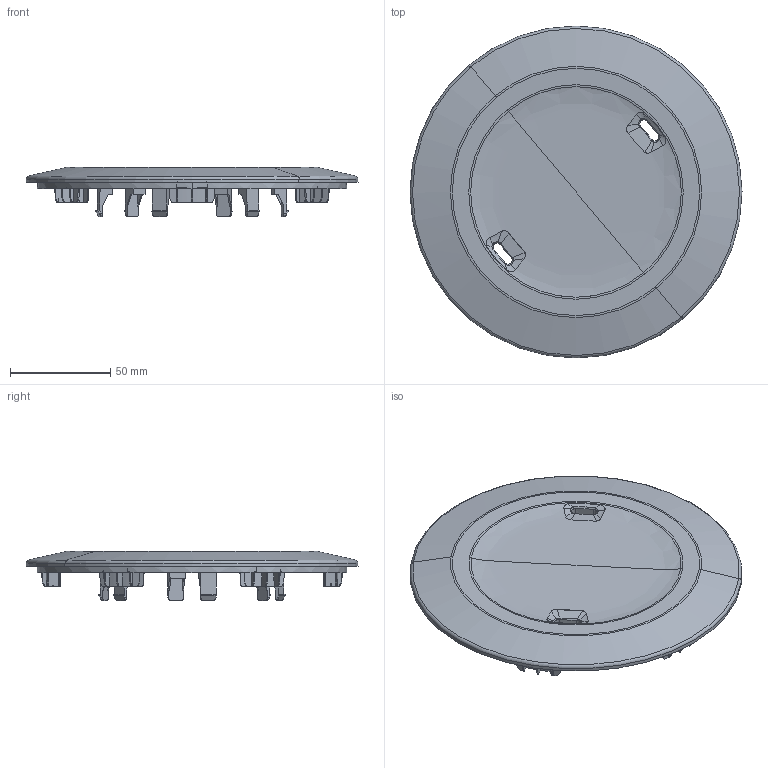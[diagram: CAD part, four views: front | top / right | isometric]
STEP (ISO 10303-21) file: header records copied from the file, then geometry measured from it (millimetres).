
FILE_DESCRIPTION((''),'2;1');
FILE_NAME('YC_SJ_ZS002881_02','2026-03-19T19:05:50',('sean.li'),(''),'CREO PARAMETRIC BY PTC INC, 2022164','CREO PARAMETRIC BY PTC INC, 2022164','');
FILE_SCHEMA(('CONFIG_CONTROL_DESIGN','SHAPE_APPEARANCE_LAYERS_GROUPS'));
Products named in the file (1): YC_SJ_ZS002881_02
Bounding box: 166 x 166 x 24.75 mm (x, y, z)
Volume: 64265.8 mm3; surface area: 67129.2 mm2
Topology: 1 solids, 1 shells, 1489 faces, 4349 edges, 2926 vertices
Faces by surface type: plane 600, extrusion 493, cone 186, bspline 138, revolution 35, cylinder 25, torus 12
Entity records: 92882 total; most frequent: CARTESIAN_POINT 24867, ORIENTED_EDGE 8694, PRESENTATION_STYLE_ASSIGNMENT 6365, DIRECTION 4997, STYLED_ITEM 4876, CURVE_STYLE 4875, EDGE_CURVE 4347, FILL_AREA_STYLE_COLOUR 2979
